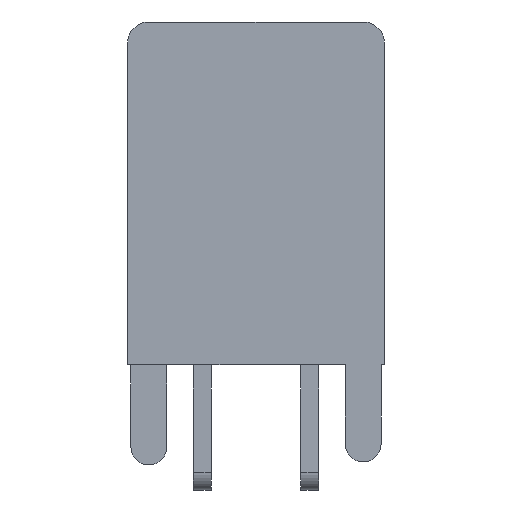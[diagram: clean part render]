
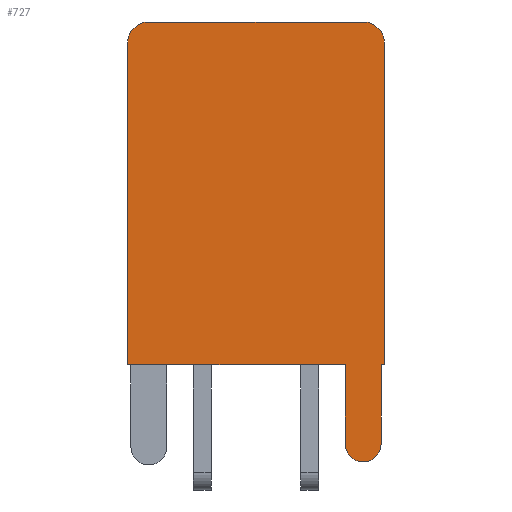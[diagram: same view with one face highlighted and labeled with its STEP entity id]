
A CAD part, left-side view. The second image highlights one B-rep face of the part: STEP entity #727.
In plain terms, the highlighted planar face has unit normal (-1, 0, 0).
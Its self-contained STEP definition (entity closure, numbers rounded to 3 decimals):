
#52 = EDGE_CURVE ( 'NONE', #53, #54, #782, .T. ) ;
#53 = VERTEX_POINT ( 'NONE', #926 ) ;
#54 = VERTEX_POINT ( 'NONE', #929 ) ;
#318 = VERTEX_POINT ( 'NONE', #1624 ) ;
#338 = EDGE_CURVE ( 'NONE', #339, #53, #1757, .T. ) ;
#339 = VERTEX_POINT ( 'NONE', #1753 ) ;
#438 = EDGE_CURVE ( 'NONE', #585, #439, #2206, .T. ) ;
#439 = VERTEX_POINT ( 'NONE', #2202 ) ;
#449 = EDGE_CURVE ( 'NONE', #54, #509, #2133, .T. ) ;
#459 = EDGE_CURVE ( 'NONE', #512, #460, #2033, .T. ) ;
#460 = VERTEX_POINT ( 'NONE', #2029 ) ;
#466 = EDGE_CURVE ( 'NONE', #460, #318, #2022, .T. ) ;
#509 = VERTEX_POINT ( 'NONE', #2238 ) ;
#511 = EDGE_CURVE ( 'NONE', #512, #509, #2237, .T. ) ;
#512 = VERTEX_POINT ( 'NONE', #2233 ) ;
#584 = EDGE_CURVE ( 'NONE', #318, #585, #2475, .T. ) ;
#585 = VERTEX_POINT ( 'NONE', #2471 ) ;
#720 = VERTEX_POINT ( 'NONE', #2706 ) ;
#722 = EDGE_CURVE ( 'NONE', #720, #339, #2705, .T. ) ;
#727 = ADVANCED_FACE ( 'NONE', ( #2864 ), #2844, .F. ) ;
#728 = EDGE_LOOP ( 'NONE', ( #729, #732, #733, #734, #735, #843, #844, #845, #846, #847, #848 ) ) ;
#729 = ORIENTED_EDGE ( 'NONE', *, *, #730, .T. ) ;
#730 = EDGE_CURVE ( 'NONE', #731, #439, #2839, .T. ) ;
#731 = VERTEX_POINT ( 'NONE', #2835 ) ;
#732 = ORIENTED_EDGE ( 'NONE', *, *, #438, .F. ) ;
#733 = ORIENTED_EDGE ( 'NONE', *, *, #584, .F. ) ;
#734 = ORIENTED_EDGE ( 'NONE', *, *, #466, .F. ) ;
#735 = ORIENTED_EDGE ( 'NONE', *, *, #459, .F. ) ;
#779 = DIRECTION ( 'NONE',  ( 0., 0., 1. ) ) ;
#780 = DIRECTION ( 'NONE',  ( 1., 0., 0. ) ) ;
#781 = AXIS2_PLACEMENT_3D ( 'NONE', #788, #780, #779 ) ;
#782 = CIRCLE ( 'NONE', #781, 0.6 ) ;
#788 = CARTESIAN_POINT ( 'NONE',  ( -6., -3., 9. ) ) ;
#843 = ORIENTED_EDGE ( 'NONE', *, *, #511, .T. ) ;
#844 = ORIENTED_EDGE ( 'NONE', *, *, #449, .F. ) ;
#845 = ORIENTED_EDGE ( 'NONE', *, *, #52, .F. ) ;
#846 = ORIENTED_EDGE ( 'NONE', *, *, #338, .F. ) ;
#847 = ORIENTED_EDGE ( 'NONE', *, *, #722, .F. ) ;
#848 = ORIENTED_EDGE ( 'NONE', *, *, #849, .T. ) ;
#849 = EDGE_CURVE ( 'NONE', #720, #731, #2765, .T. ) ;
#926 = CARTESIAN_POINT ( 'NONE',  ( -6., -3., 9.6 ) ) ;
#929 = CARTESIAN_POINT ( 'NONE',  ( -6., -3.6, 9. ) ) ;
#1624 = CARTESIAN_POINT ( 'NONE',  ( -6., -2.5, -2.213 ) ) ;
#1753 = CARTESIAN_POINT ( 'NONE',  ( -6., 3., 9.6 ) ) ;
#1754 = DIRECTION ( 'NONE',  ( 0., -1., 0. ) ) ;
#1755 = VECTOR ( 'NONE', #1754, 1000. ) ;
#1756 = CARTESIAN_POINT ( 'NONE',  ( -6., -3.6, 9.6 ) ) ;
#1757 = LINE ( 'NONE', #1756, #1755 ) ;
#2018 = DIRECTION ( 'NONE',  ( 0., 0., 1. ) ) ;
#2019 = DIRECTION ( 'NONE',  ( 1., 0., 0. ) ) ;
#2020 = CARTESIAN_POINT ( 'NONE',  ( -6., -3., -2.213 ) ) ;
#2021 = AXIS2_PLACEMENT_3D ( 'NONE', #2020, #2019, #2018 ) ;
#2022 = CIRCLE ( 'NONE', #2021, 0.5 ) ;
#2029 = CARTESIAN_POINT ( 'NONE',  ( -6., -3.5, -2.213 ) ) ;
#2030 = DIRECTION ( 'NONE',  ( 0., 0., -1. ) ) ;
#2031 = VECTOR ( 'NONE', #2030, 1000. ) ;
#2032 = CARTESIAN_POINT ( 'NONE',  ( -6., -3.5, -2.787 ) ) ;
#2033 = LINE ( 'NONE', #2032, #2031 ) ;
#2130 = DIRECTION ( 'NONE',  ( 0., 0., -1. ) ) ;
#2131 = VECTOR ( 'NONE', #2130, 1000. ) ;
#2132 = CARTESIAN_POINT ( 'NONE',  ( -6., -3.6, -2.787 ) ) ;
#2133 = LINE ( 'NONE', #2132, #2131 ) ;
#2202 = CARTESIAN_POINT ( 'NONE',  ( -6., 3., 0. ) ) ;
#2203 = DIRECTION ( 'NONE',  ( 0., 1., 0. ) ) ;
#2204 = VECTOR ( 'NONE', #2203, 1000. ) ;
#2205 = CARTESIAN_POINT ( 'NONE',  ( -6., -3.6, 0. ) ) ;
#2206 = LINE ( 'NONE', #2205, #2204 ) ;
#2233 = CARTESIAN_POINT ( 'NONE',  ( -6., -3.5, 0. ) ) ;
#2234 = DIRECTION ( 'NONE',  ( 0., -1., 0. ) ) ;
#2235 = VECTOR ( 'NONE', #2234, 1000. ) ;
#2236 = CARTESIAN_POINT ( 'NONE',  ( -6., 3.6, 0. ) ) ;
#2237 = LINE ( 'NONE', #2236, #2235 ) ;
#2238 = CARTESIAN_POINT ( 'NONE',  ( -6., -3.6, 0. ) ) ;
#2471 = CARTESIAN_POINT ( 'NONE',  ( -6., -2.5, 0. ) ) ;
#2472 = DIRECTION ( 'NONE',  ( 0., 0., 1. ) ) ;
#2473 = VECTOR ( 'NONE', #2472, 1000. ) ;
#2474 = CARTESIAN_POINT ( 'NONE',  ( -6., -2.5, -2.787 ) ) ;
#2475 = LINE ( 'NONE', #2474, #2473 ) ;
#2701 = DIRECTION ( 'NONE',  ( 0., 0., -1. ) ) ;
#2702 = DIRECTION ( 'NONE',  ( 1., 0., 0. ) ) ;
#2703 = CARTESIAN_POINT ( 'NONE',  ( -6., 3., 9. ) ) ;
#2704 = AXIS2_PLACEMENT_3D ( 'NONE', #2703, #2702, #2701 ) ;
#2705 = CIRCLE ( 'NONE', #2704, 0.6 ) ;
#2706 = CARTESIAN_POINT ( 'NONE',  ( -6., 3.6, 9. ) ) ;
#2762 = DIRECTION ( 'NONE',  ( 0., 0., -1. ) ) ;
#2763 = VECTOR ( 'NONE', #2762, 1000. ) ;
#2764 = CARTESIAN_POINT ( 'NONE',  ( -6., 3.6, 0. ) ) ;
#2765 = LINE ( 'NONE', #2764, #2763 ) ;
#2835 = CARTESIAN_POINT ( 'NONE',  ( -6., 3.6, 0. ) ) ;
#2836 = DIRECTION ( 'NONE',  ( 0., -1., 0. ) ) ;
#2837 = VECTOR ( 'NONE', #2836, 1000. ) ;
#2838 = CARTESIAN_POINT ( 'NONE',  ( -6., 3.6, 0. ) ) ;
#2839 = LINE ( 'NONE', #2838, #2837 ) ;
#2840 = DIRECTION ( 'NONE',  ( 0., 0., -1. ) ) ;
#2841 = DIRECTION ( 'NONE',  ( 1., 0., 0. ) ) ;
#2842 = CARTESIAN_POINT ( 'NONE',  ( -6., -3.6, -2.787 ) ) ;
#2843 = AXIS2_PLACEMENT_3D ( 'NONE', #2842, #2841, #2840 ) ;
#2844 = PLANE ( 'NONE',  #2843 ) ;
#2864 = FACE_OUTER_BOUND ( 'NONE', #728, .T. ) ;
